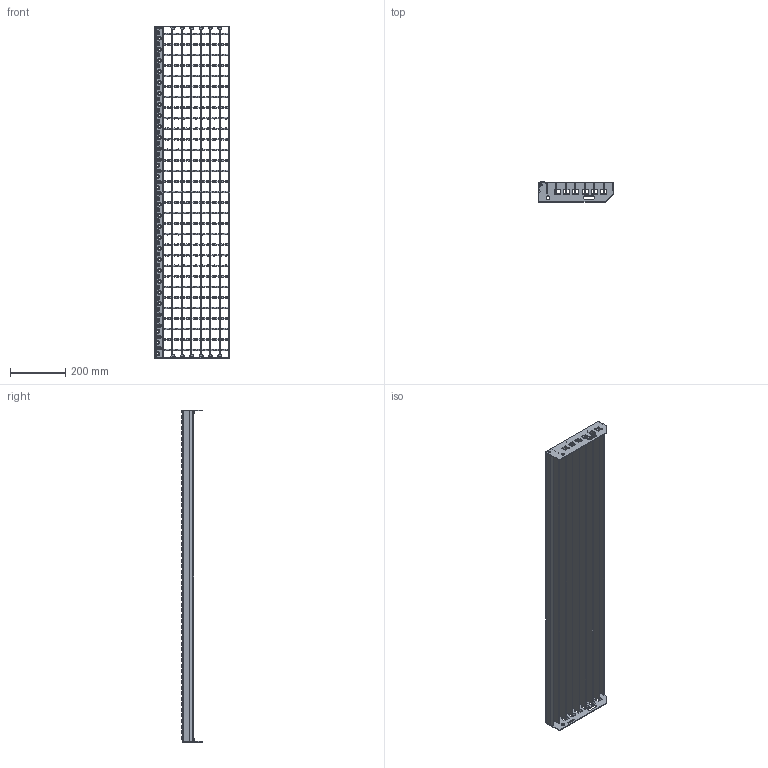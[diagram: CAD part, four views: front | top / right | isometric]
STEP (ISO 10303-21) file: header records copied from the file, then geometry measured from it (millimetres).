
FILE_DESCRIPTION(/* description */ ('','CAx-IF Rec.Pracs.---Representation and Presentation of Product Manufacturing Information (PMI)---3.8---2014-02-18'),/* implementation_level */ '2;1');
FILE_NAME(/* name */ 'C:\Users\phaverkotte\Desktop\Lager STEP\SP-Stufen\SP 340-34 38-3\SP 340-34 38-3 1200mm x270mm.stp',/* time_stamp */ '2018-03-24T11:57:41+01:00',/* author */ ('phaverkotte'),/* organization */ (''),/* preprocessor_version */ 'ST-DEVELOPER v16.13',/* originating_system */ 'Autodesk Inventor 2018',/* authorisation */ '');
FILE_SCHEMA (('AP242_MANAGED_MODEL_BASED_3D_ENGINEERING_MIM_LF { 1 0 10303 442 1 1 4 }'));
Length unit declared in the file: millimetre
Products named in the file (8): Stufe SP; Seitenplatte ausgeklinkt links; Seitenplatte 240 ausgeklinkt extern rechts; Schod nášlap; SP Rošt schodu; Nosny pas; Krouceny drat; Hinteres Flach
Assembly tree (43 placements, depth 3):
  Stufe SP
    Seitenplatte ausgeklinkt links
    Seitenplatte 240 ausgeklinkt extern rechts
    Schod nášlap
    SP Rošt schodu
      Nosny pas  x7
      Krouceny drat  x31
      Hinteres Flach
Bounding box: 271.31 x 72.75 x 1200 mm (x, y, z)
Volume: 1489711.2 mm3; surface area: 1149832.1 mm2
Topology: 42 solids, 42 shells, 1374 faces, 3688 edges, 2415 vertices
Faces by surface type: plane 637, cylinder 349, cone 180, bspline 148, torus 60
Full cylindrical faces by diameter (mm): 8 x2, 13 x2
Entity records: 28294 total; most frequent: CARTESIAN_POINT 8871, DIRECTION 3968, ORIENTED_EDGE 3564, EDGE_CURVE 1782, AXIS2_PLACEMENT_3D 1436, VERTEX_POINT 1265, EDGE_LOOP 1197, LINE 1096
